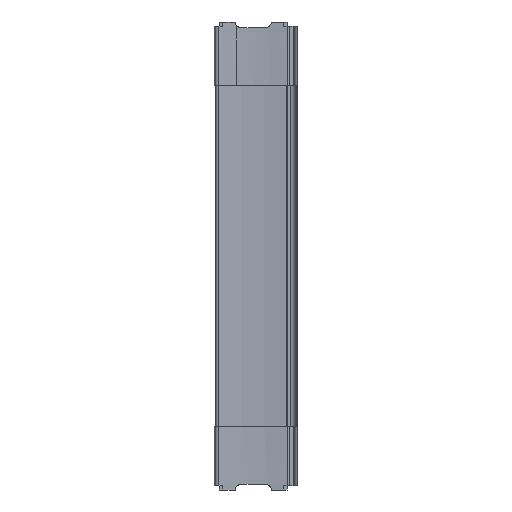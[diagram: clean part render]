
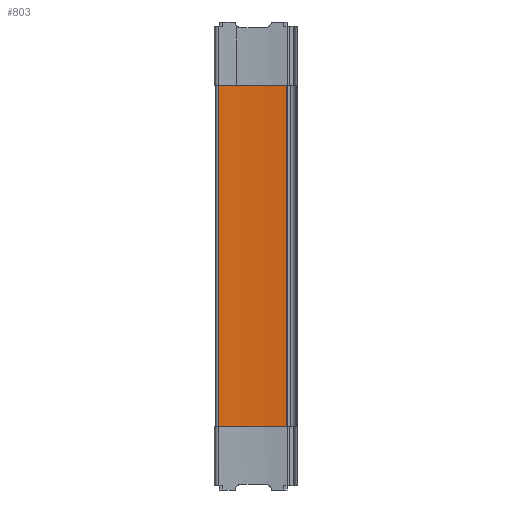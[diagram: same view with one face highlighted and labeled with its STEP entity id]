
A CAD part, left-side view. The second image highlights one B-rep face of the part: STEP entity #803.
In plain terms, the highlighted cylindrical face has radius 250 mm (diameter 500 mm), a partial arc.
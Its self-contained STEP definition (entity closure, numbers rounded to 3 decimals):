
#40 = AXIS2_PLACEMENT_3D ( 'NONE', #1794, #1793, #1795 ) ;
#311 = AXIS2_PLACEMENT_3D ( 'NONE', #3771, #3773, #3774 ) ;
#315 = AXIS2_PLACEMENT_3D ( 'NONE', #3761, #3766, #3767 ) ;
#448 = EDGE_CURVE ( 'NONE', #3034, #3042, #2845, .T. ) ;
#582 = EDGE_CURVE ( 'NONE', #3034, #2894, #1229, .T. ) ;
#583 = EDGE_CURVE ( 'NONE', #2894, #2905, #1238, .T. ) ;
#584 = EDGE_CURVE ( 'NONE', #2905, #3042, #1226, .T. ) ;
#803 = ADVANCED_FACE ( 'NONE', ( #892 ), #889, .F. ) ;
#889 = CYLINDRICAL_SURFACE ( 'NONE', #40, 250. ) ;
#892 = FACE_OUTER_BOUND ( 'NONE', #1948, .T. ) ;
#1226 = CIRCLE ( 'NONE', #311, 250. ) ;
#1229 = CIRCLE ( 'NONE', #315, 250. ) ;
#1231 = VECTOR ( 'NONE', #3770, 1000. ) ;
#1238 = LINE ( 'NONE', #3769, #1231 ) ;
#1793 = DIRECTION ( 'NONE',  ( 0., 0., -1. ) ) ;
#1794 = CARTESIAN_POINT ( 'NONE',  ( -255.319, 48.963, 143.5 ) ) ;
#1795 = DIRECTION ( 'NONE',  ( -1., 0., 0. ) ) ;
#1948 = EDGE_LOOP ( 'NONE', ( #2706, #2703, #2702, #2701 ) ) ;
#2701 = ORIENTED_EDGE ( 'NONE', *, *, #448, .T. ) ;
#2702 = ORIENTED_EDGE ( 'NONE', *, *, #582, .F. ) ;
#2703 = ORIENTED_EDGE ( 'NONE', *, *, #583, .F. ) ;
#2706 = ORIENTED_EDGE ( 'NONE', *, *, #584, .F. ) ;
#2845 = LINE ( 'NONE', #3403, #2846 ) ;
#2846 = VECTOR ( 'NONE', #3404, 1000. ) ;
#2894 = VERTEX_POINT ( 'NONE', #4150 ) ;
#2905 = VERTEX_POINT ( 'NONE', #4161 ) ;
#3034 = VERTEX_POINT ( 'NONE', #4290 ) ;
#3042 = VERTEX_POINT ( 'NONE', #4298 ) ;
#3403 = CARTESIAN_POINT ( 'NONE',  ( -5.747, 63.571, 143.5 ) ) ;
#3404 = DIRECTION ( 'NONE',  ( 0., 0., -1. ) ) ;
#3761 = CARTESIAN_POINT ( 'NONE',  ( -255.319, 48.963, 137.5 ) ) ;
#3766 = DIRECTION ( 'NONE',  ( 0., 0., -1. ) ) ;
#3767 = DIRECTION ( 'NONE',  ( 1., 0., 0. ) ) ;
#3769 = CARTESIAN_POINT ( 'NONE',  ( -8.643, 8.331, 143.5 ) ) ;
#3770 = DIRECTION ( 'NONE',  ( 0., 0., -1. ) ) ;
#3771 = CARTESIAN_POINT ( 'NONE',  ( -255.319, 48.963, -137.5 ) ) ;
#3773 = DIRECTION ( 'NONE',  ( 0., 0., 1. ) ) ;
#3774 = DIRECTION ( 'NONE',  ( -1., 0., 0. ) ) ;
#4150 = CARTESIAN_POINT ( 'NONE',  ( -8.643, 8.331, 137.5 ) ) ;
#4161 = CARTESIAN_POINT ( 'NONE',  ( -8.643, 8.331, -137.5 ) ) ;
#4290 = CARTESIAN_POINT ( 'NONE',  ( -5.747, 63.571, 137.5 ) ) ;
#4298 = CARTESIAN_POINT ( 'NONE',  ( -5.747, 63.571, -137.5 ) ) ;
